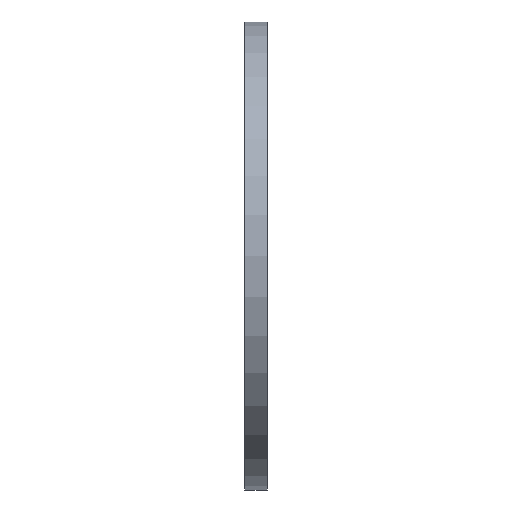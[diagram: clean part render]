
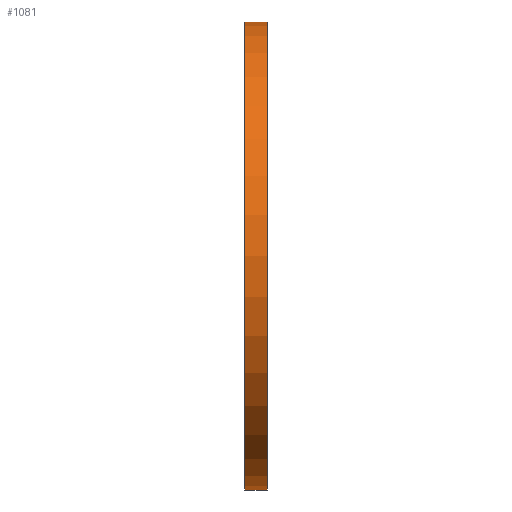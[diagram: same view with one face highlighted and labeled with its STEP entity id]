
A CAD part, left-side view. The second image highlights one B-rep face of the part: STEP entity #1081.
In plain terms, the highlighted cylindrical face has radius 167.5 mm (diameter 335 mm), a partial arc.
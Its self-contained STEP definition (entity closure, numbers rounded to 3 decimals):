
#13 = VERTEX_POINT ( 'NONE', #678 ) ;
#50 = LINE ( 'NONE', #510, #178 ) ;
#51 = DIRECTION ( 'NONE',  ( 0., -1., 0. ) ) ;
#71 = CARTESIAN_POINT ( 'NONE',  ( 0., 0., 0. ) ) ;
#84 = ORIENTED_EDGE ( 'NONE', *, *, #836, .T. ) ;
#151 = VERTEX_POINT ( 'NONE', #1052 ) ;
#159 = DIRECTION ( 'NONE',  ( 0., 0., -1. ) ) ;
#178 = VECTOR ( 'NONE', #307, 1000. ) ;
#211 = VERTEX_POINT ( 'NONE', #1063 ) ;
#242 = CYLINDRICAL_SURFACE ( 'NONE', #301, 167.5 ) ;
#252 = DIRECTION ( 'NONE',  ( 0., -1., 0. ) ) ;
#259 = DIRECTION ( 'NONE',  ( 0., 0., -1. ) ) ;
#291 = EDGE_LOOP ( 'NONE', ( #1066, #84, #853, #814 ) ) ;
#299 = VERTEX_POINT ( 'NONE', #438 ) ;
#301 = AXIS2_PLACEMENT_3D ( 'NONE', #71, #612, #159 ) ;
#307 = DIRECTION ( 'NONE',  ( 0., -1., 0. ) ) ;
#322 = DIRECTION ( 'NONE',  ( 0., 0., -1. ) ) ;
#332 = EDGE_CURVE ( 'NONE', #299, #211, #435, .T. ) ;
#375 = DIRECTION ( 'NONE',  ( 0., -1., 0. ) ) ;
#408 = AXIS2_PLACEMENT_3D ( 'NONE', #1068, #252, #259 ) ;
#435 = CIRCLE ( 'NONE', #408, 167.5 ) ;
#438 = CARTESIAN_POINT ( 'NONE',  ( 0., 0., 167.5 ) ) ;
#510 = CARTESIAN_POINT ( 'NONE',  ( 0., 0., -167.5 ) ) ;
#533 = CIRCLE ( 'NONE', #1087, 167.5 ) ;
#589 = FACE_OUTER_BOUND ( 'NONE', #291, .T. ) ;
#612 = DIRECTION ( 'NONE',  ( 0., -1., 0. ) ) ;
#678 = CARTESIAN_POINT ( 'NONE',  ( 0., 16., 167.5 ) ) ;
#730 = LINE ( 'NONE', #816, #1040 ) ;
#764 = CARTESIAN_POINT ( 'NONE',  ( 0., 16., 0. ) ) ;
#814 = ORIENTED_EDGE ( 'NONE', *, *, #332, .F. ) ;
#816 = CARTESIAN_POINT ( 'NONE',  ( 0., 0., 167.5 ) ) ;
#836 = EDGE_CURVE ( 'NONE', #13, #151, #533, .T. ) ;
#853 = ORIENTED_EDGE ( 'NONE', *, *, #901, .T. ) ;
#901 = EDGE_CURVE ( 'NONE', #151, #211, #50, .T. ) ;
#1040 = VECTOR ( 'NONE', #375, 1000. ) ;
#1052 = CARTESIAN_POINT ( 'NONE',  ( 0., 16., -167.5 ) ) ;
#1063 = CARTESIAN_POINT ( 'NONE',  ( 0., 0., -167.5 ) ) ;
#1066 = ORIENTED_EDGE ( 'NONE', *, *, #1095, .F. ) ;
#1068 = CARTESIAN_POINT ( 'NONE',  ( 0., 0., 0. ) ) ;
#1081 = ADVANCED_FACE ( 'NONE', ( #589 ), #242, .T. ) ;
#1087 = AXIS2_PLACEMENT_3D ( 'NONE', #764, #51, #322 ) ;
#1095 = EDGE_CURVE ( 'NONE', #13, #299, #730, .T. ) ;
